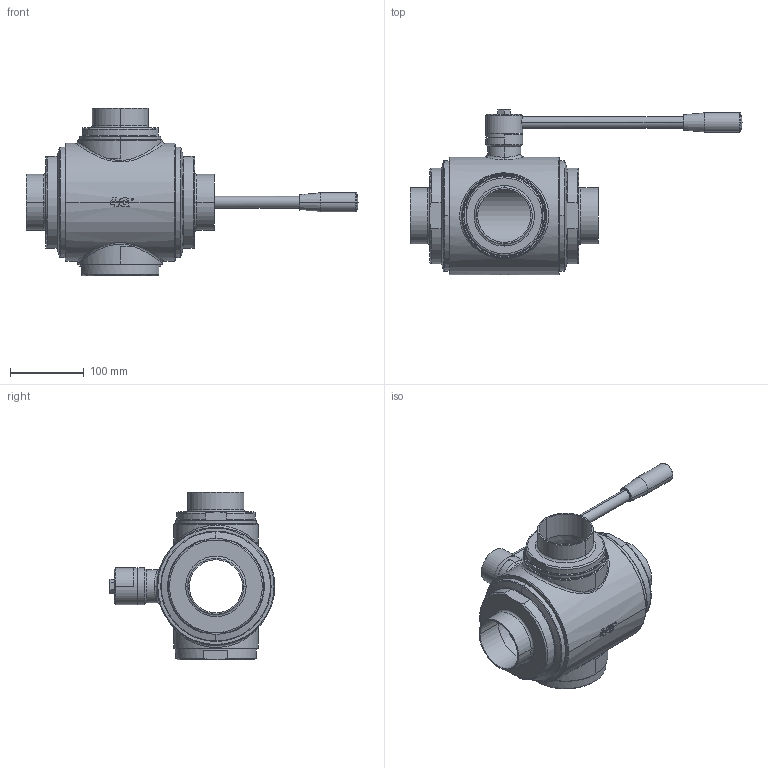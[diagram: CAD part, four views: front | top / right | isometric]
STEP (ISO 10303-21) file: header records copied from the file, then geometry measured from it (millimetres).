
FILE_DESCRIPTION((''),'2;1');
FILE_NAME('PARTE_VUOTA','2023-02-28T15:15:31',('alfio.taboni'),('CDM Tecnoconsulting'),'CREO PARAMETRIC BY PTC INC, 2020053','CREO PARAMETRIC BY PTC INC, 2020053','');
FILE_SCHEMA(('CONFIG_CONTROL_DESIGN','SHAPE_APPEARANCE_LAYERS_GROUPS'));
Length unit declared in the file: millimetre
Products named in the file (1): PARTE_VUOTA
Bounding box: 451 x 225 x 228 mm (x, y, z)
Volume: 2877378 mm3; surface area: 435277.9 mm2
Topology: 1 solids, 26 shells, 899 faces, 2288 edges, 1443 vertices
Faces by surface type: plane 327, cylinder 273, cone 153, extrusion 55, torus 50, bspline 34, sphere 7
Entity records: 44445 total; most frequent: CARTESIAN_POINT 16271, ORIENTED_EDGE 4536, DIRECTION 4213, PRESENTATION_STYLE_ASSIGNMENT 2272, STYLED_ITEM 2272, CURVE_STYLE 2270, EDGE_CURVE 2270, AXIS2_PLACEMENT_3D 1563
